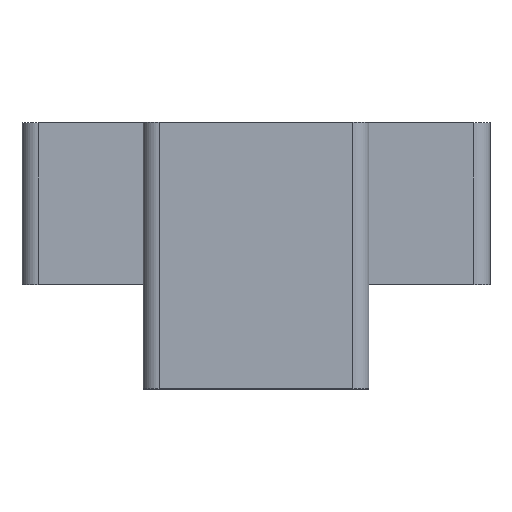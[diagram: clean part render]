
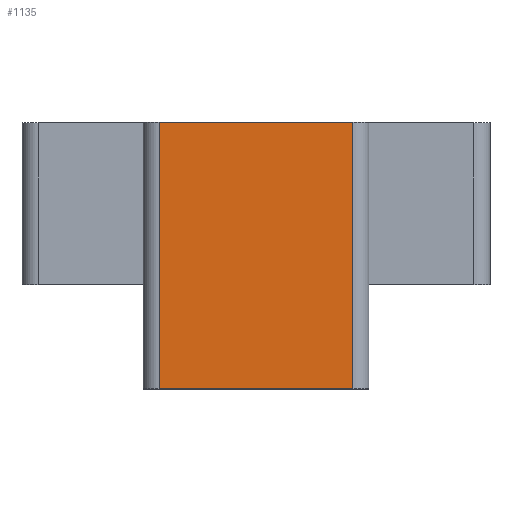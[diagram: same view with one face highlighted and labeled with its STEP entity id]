
A CAD part, top view. The second image highlights one B-rep face of the part: STEP entity #1135.
In plain terms, the highlighted planar face has unit normal (0, 0, 1).
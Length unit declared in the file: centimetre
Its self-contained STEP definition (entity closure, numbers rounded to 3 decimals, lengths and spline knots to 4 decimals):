
#38=VECTOR('',#1355,1.);
#43=VECTOR('',#1364,1.);
#47=VECTOR('',#1374,1.);
#51=VECTOR('',#1383,1.);
#138=LINE('',#1668,#38);
#143=LINE('',#1680,#43);
#147=LINE('',#1692,#47);
#151=LINE('',#1702,#51);
#246=PLANE('',#1220);
#290=VERTEX_POINT('',#1667);
#291=VERTEX_POINT('',#1669);
#295=VERTEX_POINT('',#1681);
#298=VERTEX_POINT('',#1689);
#458=EDGE_CURVE('',#290,#291,#138,.T.);
#464=EDGE_CURVE('',#291,#295,#143,.T.);
#470=EDGE_CURVE('',#295,#298,#147,.T.);
#475=EDGE_CURVE('',#290,#298,#151,.T.);
#652=ORIENTED_EDGE('',*,*,#458,.F.);
#653=ORIENTED_EDGE('',*,*,#475,.T.);
#654=ORIENTED_EDGE('',*,*,#470,.F.);
#655=ORIENTED_EDGE('',*,*,#464,.F.);
#952=EDGE_LOOP('',(#652,#653,#654,#655));
#1048=FACE_BOUND('',#952,.T.);
#1135=ADVANCED_FACE('',(#1048),#246,.T.);
#1220=AXIS2_PLACEMENT_3D('',#1701,#1382,$);
#1355=DIRECTION('',(0.,1.,0.));
#1364=DIRECTION('',(1.,0.,0.));
#1374=DIRECTION('',(0.,-1.,0.));
#1382=DIRECTION('',(0.,0.,1.));
#1383=DIRECTION('',(1.,0.,0.));
#1667=CARTESIAN_POINT('',(-1.524,-4.191,7.0485));
#1668=CARTESIAN_POINT('',(-1.524,0.,7.0485));
#1669=CARTESIAN_POINT('',(-1.524,0.,7.0485));
#1680=CARTESIAN_POINT('',(-1.778,0.,7.0485));
#1681=CARTESIAN_POINT('',(1.524,0.,7.0485));
#1689=CARTESIAN_POINT('',(1.524,-4.191,7.0485));
#1692=CARTESIAN_POINT('',(1.524,0.,7.0485));
#1701=CARTESIAN_POINT('',(0.,0.,7.0485));
#1702=CARTESIAN_POINT('',(-1.778,-4.191,7.0485));
